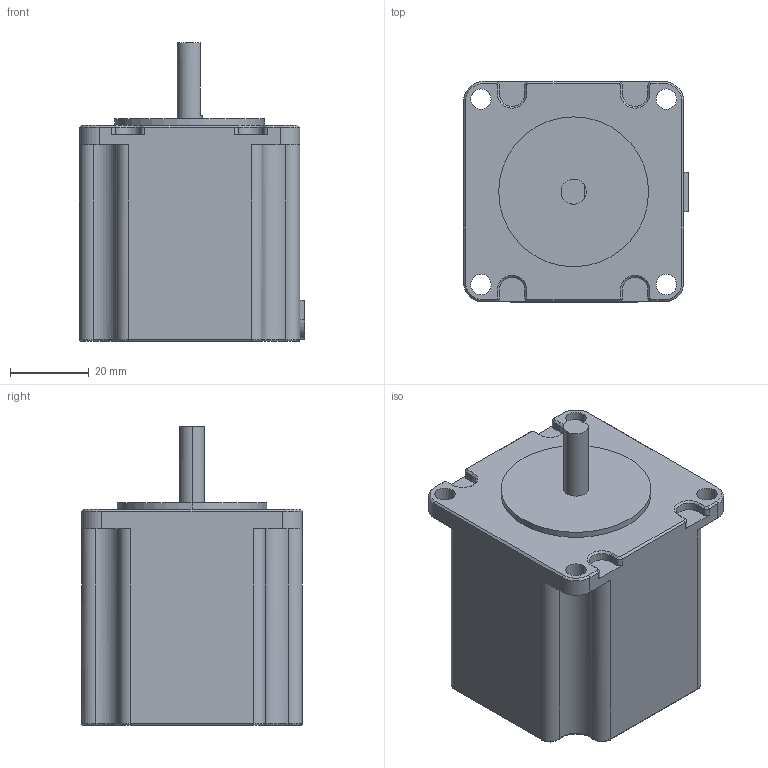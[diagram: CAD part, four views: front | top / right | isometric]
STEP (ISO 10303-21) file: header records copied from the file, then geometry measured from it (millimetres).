
FILE_DESCRIPTION((''),'2;1');
FILE_NAME('ABCD0E94C2B2YBP3_1','2021-11-18T14:49:12',('qingl'),(''),'CREO PARAMETRIC BY PTC INC, 2019224','CREO PARAMETRIC BY PTC INC, 2019224','');
FILE_SCHEMA(('CONFIG_CONTROL_DESIGN'));
Length unit declared in the file: millimetre
Products named in the file (1): ABCD0E94C2B2YBP3_1
Bounding box: 57.2 x 56 x 76 mm (x, y, z)
Volume: 156013 mm3; surface area: 18867.8 mm2
Topology: 1 solids, 2 shells, 255 faces, 684 edges, 441 vertices
Faces by surface type: cylinder 161, plane 58, cone 16, torus 12, bspline 8
Entity records: 11555 total; most frequent: CARTESIAN_POINT 5408, ORIENTED_EDGE 1368, DIRECTION 1147, EDGE_CURVE 684, VERTEX_POINT 441, AXIS2_PLACEMENT_3D 428, VECTOR 291, LINE 291
